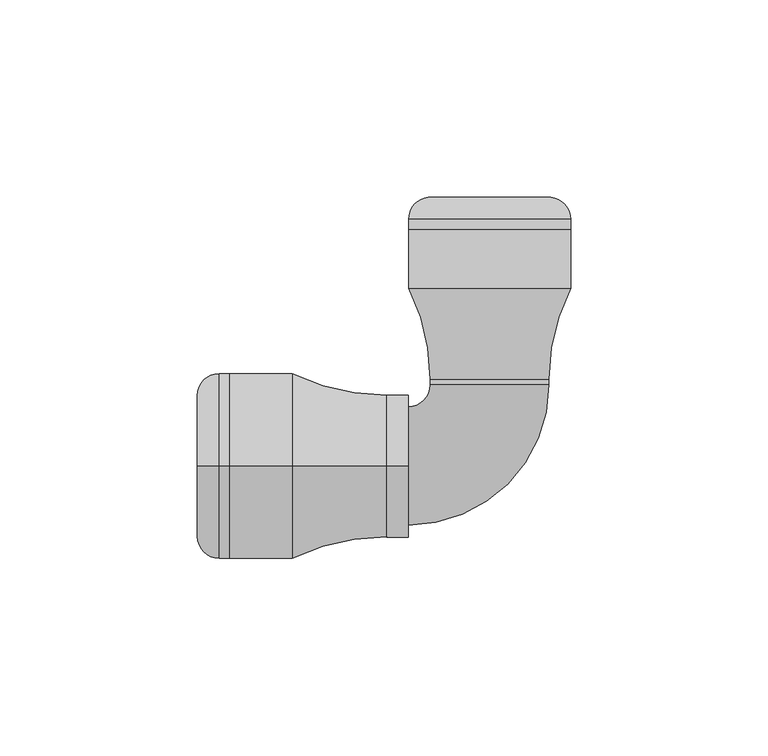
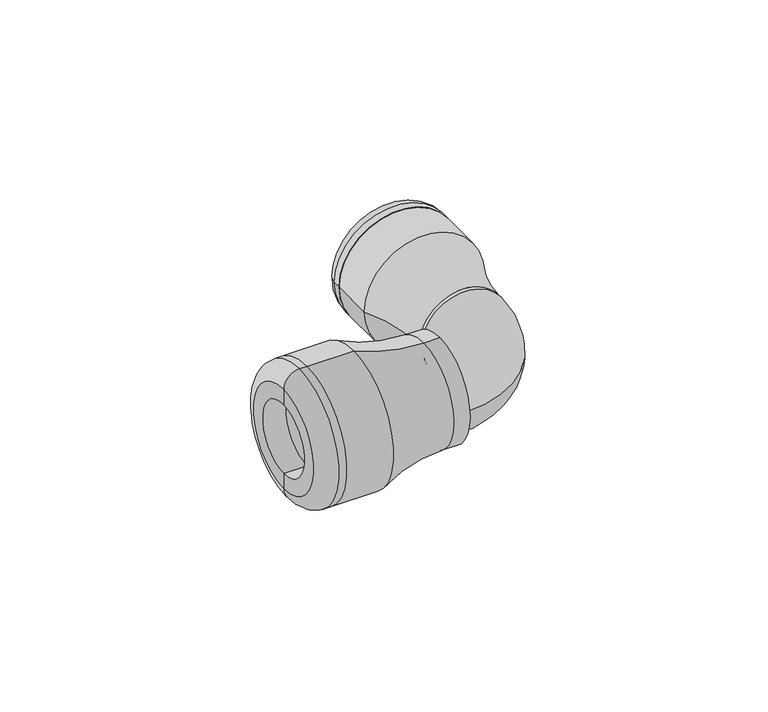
"""IFC4 building model written with IfcOpenShell, lengths in millimetres: pipe fitting geometry, Plumbing_Pipe-Fittings_Plasson_Reducing-Elbow-90_1051 : Plumbing_Pipe-Fittings_Plasson_Reducing-Elbow-90_1051."""

from ifc_helpers import new_model, si_unit, point, frame, origin, place, context, project, spatial, polyline, circle_curve, ellipse_curve, trimmed, source, transform, mapped, element, save
from ifc_brep_helpers import plane_surface, cylinder_surface, revolved_surface, advanced_brep


def pipe_fitting_50959c0b(model_context):
    return source(origin(), model_context, "Body", "AdvancedBrep", [
        advanced_brep(
        [(-20.6, -15.0, 0.0), (-20.6, 15.0, 0.0), (15.0, 20.6, 0.0), (-15.0, 20.6, 0.0)],
        [
            (0, 1, circle_curve(frame((-20.6, 0.0, 0.0), z_axis=(-1.0, 0.0, 0.0), x_axis=(0.0, 1.0, 0.0)), 15.0)),
            (1, 0, circle_curve(frame((-20.6, 0.0, 0.0), z_axis=(-1.0, 0.0, 0.0), x_axis=(0.0, 1.0, 0.0)), 15.0)),
            (2, 3, circle_curve(frame((0.0, 20.6, 0.0), z_axis=(0.0, 1.0, 0.0), x_axis=(-1.0, 0.0, 0.0)), 15.0)),
            (3, 2, circle_curve(frame((0.0, 20.6, 0.0), z_axis=(0.0, 1.0, 0.0), x_axis=(-1.0, 0.0, 0.0)), 15.0)),
            (3, 1, circle_curve(frame((-20.6, 20.6, 0.0), z_axis=(0.0, 0.0, -1.0), x_axis=(0.0, -1.0, 0.0)), 5.6)),
            (0, 2, circle_curve(frame((-20.6, 20.6, 0.0), z_axis=(0.0, 0.0, 1.0), x_axis=(0.0, -1.0, 0.0)), 35.6)),
        ],
        [
            plane_surface(frame((-20.6, 0.0, 0.0), z_axis=(-1.0, 0.0, 0.0), x_axis=(0.0, 0.0, 1.0))),
            plane_surface(frame((0.0, 20.6, 0.0), z_axis=(0.0, 1.0, 0.0), x_axis=(0.0, 0.0, 1.0))),
            revolved_surface(trimmed(ellipse_curve(frame((-20.6, 0.0, 0.0), z_axis=(-1.0, 0.0, 0.0), x_axis=(0.0, 1.0, 0.0)), 15.0, 15.0), [point((-20.6, -15.0, 0.0))], [point((-20.6, 15.0, 0.0))], True, "CARTESIAN"), (-20.6, 20.6, 0.0), (0.0, 0.0, 1.0)),
            revolved_surface(trimmed(ellipse_curve(frame((-20.6, 0.0, 0.0), z_axis=(-1.0, 0.0, 0.0), x_axis=(0.0, 1.0, 0.0)), 15.0, 15.0), [point((-20.6, 15.0, 0.0))], [point((-20.6, -15.0, 0.0))], True, "CARTESIAN"), (-20.6, 20.6, 0.0), (0.0, 0.0, 1.0)),
        ],
        [
            (0, [[1, 2]]),
            (1, [[3, 4]]),
            (2, [[5, -1, 6, -4]]),
            (3, [[-6, -2, -5, -3]]),
        ],
    ),
        advanced_brep(
        [(15.5, 68.0, 0.0), (-15.5, 68.0, 0.0), (-10.0, 68.0, 0.0), (10.0, 68.0, 0.0), (20.5, 60.0, 0.0), (-20.5, 60.0, 0.0), (-20.5, 62.5, 0.0), (20.5, 62.5, 0.0), (10.0, 60.0, 0.0), (-10.0, 60.0, 0.0)],
        [
            (0, 1, circle_curve(frame((0.0, 68.0, 0.0), z_axis=(0.0, 1.0, 0.0), x_axis=(-1.0, 0.0, 0.0)), 15.5)),
            (1, 2),
            (2, 3, circle_curve(frame((0.0, 68.0, 0.0), z_axis=(0.0, -1.0, 0.0), x_axis=(-1.0, 0.0, 0.0)), 10.0)),
            (3, 0),
            (1, 0, circle_curve(frame((0.0, 68.0, 0.0), z_axis=(0.0, 1.0, 0.0), x_axis=(-1.0, 0.0, 0.0)), 15.5)),
            (3, 2, circle_curve(frame((0.0, 68.0, 0.0), z_axis=(0.0, -1.0, 0.0), x_axis=(-1.0, 0.0, 0.0)), 10.0)),
            (4, 5, circle_curve(frame((0.0, 60.0, 0.0), z_axis=(0.0, 1.0, 0.0), x_axis=(-1.0, 0.0, 0.0)), 20.5)),
            (5, 6),
            (6, 7, circle_curve(frame((0.0, 62.5, 0.0), z_axis=(0.0, -1.0, 0.0), x_axis=(-1.0, 0.0, 0.0)), 20.5)),
            (7, 4),
            (5, 4, circle_curve(frame((0.0, 60.0, 0.0), z_axis=(0.0, 1.0, 0.0), x_axis=(-1.0, 0.0, 0.0)), 20.5)),
            (7, 6, circle_curve(frame((0.0, 62.5, 0.0), z_axis=(0.0, -1.0, 0.0), x_axis=(-1.0, 0.0, 0.0)), 20.5)),
            (8, 9, circle_curve(frame((0.0, 60.0, 0.0), z_axis=(0.0, 1.0, 0.0), x_axis=(-1.0, 0.0, 0.0)), 10.0)),
            (9, 5),
            (4, 8),
            (9, 8, circle_curve(frame((0.0, 60.0, 0.0), z_axis=(0.0, 1.0, 0.0), x_axis=(-1.0, 0.0, 0.0)), 10.0)),
            (2, 9),
            (8, 3),
            (6, 1, circle_curve(frame((-14.975, 62.5, 0.0), z_axis=(0.0, 0.0, -1.0), x_axis=(0.0, 1.0, 0.0)), 5.525)),
            (0, 7, circle_curve(frame((14.975, 62.5, 0.0), z_axis=(0.0, 0.0, -1.0), x_axis=(0.0, 1.0, 0.0)), 5.525)),
        ],
        [
            plane_surface(frame((0.0, 68.0, 0.0), z_axis=(0.0, 1.0, 0.0), x_axis=(-1.0, 0.0, 0.0))),
            cylinder_surface(frame((0.0, 34.2561261, 0.0), z_axis=(0.0, -1.0, 0.0), x_axis=(-1.0, 0.0, 0.0)), 20.5),
            plane_surface(frame((0.0, 60.0, 0.0), z_axis=(0.0, -1.0, 0.0), x_axis=(-1.0, 0.0, 0.0))),
            revolved_surface(polyline([(-10.0, 60.0, 0.0), (-10.0, 68.0, 0.0)]), (0.0, 34.2561261, 0.0), (0.0, -1.0, 0.0)),
            revolved_surface(trimmed(ellipse_curve(frame((-14.975, 62.5, 0.0), z_axis=(0.0, 0.0, 1.0), x_axis=(0.0, 1.0, 0.0)), 5.525, 5.525), [point((-15.5, 68.0, 0.0))], [point((-20.5, 62.5, 0.0))], True, "CARTESIAN"), (0.0, 34.2561261, 0.0), (0.0, -1.0, 0.0)),
        ],
        [
            (0, [[1, 2, 3, 4]]),
            (0, [[5, -4, 6, -2]]),
            (1, [[7, 8, 9, 10]]),
            (1, [[11, -10, 12, -8]]),
            (2, [[13, 14, -7, 15]]),
            (2, [[16, -15, -11, -14]]),
            (3, [[-3, 17, -13, 18]]),
            (3, [[-6, -18, -16, -17]]),
            (4, [[-9, 19, -1, 20]]),
            (4, [[-12, -20, -5, -19]]),
        ],
    ),
        advanced_brep(
        [(20.5, 45.0, 0.0), (-20.5, 45.0, 0.0), (-20.5, 60.0, 0.0), (20.5, 60.0, 0.0), (10.0, 22.0, 0.0), (-10.0, 22.0, 0.0), (0.0, 22.0, 0.0), (10.0, 60.0, 0.0), (-10.0, 60.0, 0.0), (15.0, 22.0, 0.0), (-15.0, 22.0, 0.0), (15.0, 20.6, 0.0), (-15.0, 20.6, 0.0), (0.0, 20.6, 0.0)],
        [
            (0, 1, circle_curve(frame((0.0, 45.0, 0.0), z_axis=(0.0, 1.0, 0.0), x_axis=(-1.0, 0.0, 0.0)), 20.5)),
            (1, 2),
            (2, 3, circle_curve(frame((0.0, 60.0, 0.0), z_axis=(0.0, -1.0, 0.0), x_axis=(-1.0, 0.0, 0.0)), 20.5)),
            (3, 0),
            (1, 0, circle_curve(frame((0.0, 45.0, 0.0), z_axis=(0.0, 1.0, 0.0), x_axis=(-1.0, 0.0, 0.0)), 20.5)),
            (3, 2, circle_curve(frame((0.0, 60.0, 0.0), z_axis=(0.0, -1.0, 0.0), x_axis=(-1.0, 0.0, 0.0)), 20.5)),
            (4, 5, circle_curve(frame((0.0, 22.0, 0.0), z_axis=(0.0, 1.0, 0.0), x_axis=(-1.0, 0.0, 0.0)), 10.0)),
            (5, 6),
            (6, 4),
            (5, 4, circle_curve(frame((0.0, 22.0, 0.0), z_axis=(0.0, 1.0, 0.0), x_axis=(-1.0, 0.0, 0.0)), 10.0)),
            (7, 8, circle_curve(frame((0.0, 60.0, 0.0), z_axis=(0.0, 1.0, 0.0), x_axis=(-1.0, 0.0, 0.0)), 10.0)),
            (8, 5),
            (4, 7),
            (8, 7, circle_curve(frame((0.0, 60.0, 0.0), z_axis=(0.0, 1.0, 0.0), x_axis=(-1.0, 0.0, 0.0)), 10.0)),
            (2, 8),
            (7, 3),
            (9, 10, circle_curve(frame((0.0, 22.0, 0.0), z_axis=(0.0, 1.0, 0.0), x_axis=(-1.0, 0.0, 0.0)), 15.0)),
            (10, 1, circle_curve(frame((-65.8409091, 22.0, 0.0), z_axis=(0.0, 0.0, 1.0), x_axis=(0.0, 1.0, 0.0)), 50.8409091)),
            (0, 9, circle_curve(frame((65.8409091, 22.0, 0.0), z_axis=(0.0, 0.0, 1.0), x_axis=(0.0, 1.0, 0.0)), 50.8409091)),
            (10, 9, circle_curve(frame((0.0, 22.0, 0.0), z_axis=(0.0, 1.0, 0.0), x_axis=(-1.0, 0.0, 0.0)), 15.0)),
            (11, 12, circle_curve(frame((0.0, 20.6, 0.0), z_axis=(0.0, 1.0, 0.0), x_axis=(-1.0, 0.0, 0.0)), 15.0)),
            (12, 10),
            (9, 11),
            (12, 11, circle_curve(frame((0.0, 20.6, 0.0), z_axis=(0.0, 1.0, 0.0), x_axis=(-1.0, 0.0, 0.0)), 15.0)),
            (13, 12),
            (11, 13),
        ],
        [
            cylinder_surface(frame((0.0, 36.3135311, 0.0), z_axis=(0.0, -1.0, 0.0), x_axis=(-1.0, 0.0, 0.0)), 20.5),
            plane_surface(frame((0.0, 22.0, 0.0), z_axis=(0.0, 1.0, 0.0), x_axis=(-1.0, 0.0, 0.0))),
            revolved_surface(polyline([(-10.0, 22.0, 0.0), (-10.0, 60.0, 0.0)]), (0.0, 36.3135311, 0.0), (0.0, -1.0, 0.0)),
            plane_surface(frame((0.0, 60.0, 0.0), z_axis=(0.0, 1.0, 0.0), x_axis=(-1.0, 0.0, 0.0))),
            revolved_surface(trimmed(ellipse_curve(frame((-65.8409091, 22.0, 0.0), z_axis=(0.0, 0.0, -1.0), x_axis=(0.0, 1.0, 0.0)), 50.8409091, 50.8409091), [point((-20.5, 45.0, 0.0))], [point((-15.0, 22.0, 0.0))], True, "CARTESIAN"), (0.0, 36.3135311, 0.0), (0.0, -1.0, 0.0)),
            cylinder_surface(frame((0.0, 36.3135311, 0.0), z_axis=(0.0, -1.0, 0.0), x_axis=(-1.0, 0.0, 0.0)), 15.0),
            plane_surface(frame((0.0, 20.6, 0.0), z_axis=(0.0, -1.0, 0.0), x_axis=(-1.0, 0.0, 0.0))),
        ],
        [
            (0, [[1, 2, 3, 4]]),
            (0, [[5, -4, 6, -2]]),
            (1, [[7, 8, 9]]),
            (1, [[10, -9, -8]]),
            (2, [[11, 12, -7, 13]]),
            (2, [[14, -13, -10, -12]]),
            (3, [[-3, 15, -11, 16]]),
            (3, [[-6, -16, -14, -15]]),
            (4, [[17, 18, -1, 19]]),
            (4, [[20, -19, -5, -18]]),
            (5, [[21, 22, -17, 23]]),
            (5, [[24, -23, -20, -22]]),
            (6, [[25, -21, 26]]),
            (6, [[-26, -24, -25]]),
        ],
    ),
        advanced_brep(
        [(-66.0, 0.0, -23.5), (-66.0, 0.0, 23.5), (-66.0, 0.0, 12.5), (-66.0, 0.0, -12.5), (-68.5, 0.0, -23.5), (-68.5, 0.0, 23.5), (-74.0, 0.0, -18.0), (-74.0, 0.0, 18.0), (-74.0, 0.0, -12.5), (-74.0, 0.0, 12.5)],
        [
            (0, 1, circle_curve(frame((-66.0, 0.0, 0.0), z_axis=(1.0, 0.0, 0.0), x_axis=(0.0, 0.0, 1.0)), 23.5)),
            (1, 2),
            (2, 3, circle_curve(frame((-66.0, 0.0, 0.0), z_axis=(-1.0, 0.0, 0.0), x_axis=(0.0, 0.0, 1.0)), 12.5)),
            (3, 0),
            (1, 0, circle_curve(frame((-66.0, 0.0, 0.0), z_axis=(1.0, 0.0, 0.0), x_axis=(0.0, 0.0, 1.0)), 23.5)),
            (3, 2, circle_curve(frame((-66.0, 0.0, 0.0), z_axis=(-1.0, 0.0, 0.0), x_axis=(0.0, 0.0, 1.0)), 12.5)),
            (4, 5, circle_curve(frame((-68.5, 0.0, 0.0), z_axis=(1.0, 0.0, 0.0), x_axis=(0.0, 0.0, 1.0)), 23.5)),
            (5, 1),
            (0, 4),
            (5, 4, circle_curve(frame((-68.5, 0.0, 0.0), z_axis=(1.0, 0.0, 0.0), x_axis=(0.0, 0.0, 1.0)), 23.5)),
            (6, 7, circle_curve(frame((-74.0, 0.0, 0.0), z_axis=(1.0, 0.0, 0.0), x_axis=(0.0, 0.0, 1.0)), 18.0)),
            (7, 5, circle_curve(frame((-68.5, 0.0, 18.0), z_axis=(0.0, 1.0, 0.0), x_axis=(1.0, 0.0, 0.0)), 5.5)),
            (4, 6, circle_curve(frame((-68.5, 0.0, -18.0), z_axis=(0.0, 1.0, 0.0), x_axis=(1.0, 0.0, 0.0)), 5.5)),
            (7, 6, circle_curve(frame((-74.0, 0.0, 0.0), z_axis=(1.0, 0.0, 0.0), x_axis=(0.0, 0.0, 1.0)), 18.0)),
            (8, 9, circle_curve(frame((-74.0, 0.0, 0.0), z_axis=(1.0, 0.0, 0.0), x_axis=(0.0, 0.0, 1.0)), 12.5)),
            (9, 7),
            (6, 8),
            (9, 8, circle_curve(frame((-74.0, 0.0, 0.0), z_axis=(1.0, 0.0, 0.0), x_axis=(0.0, 0.0, 1.0)), 12.5)),
            (2, 9),
            (8, 3),
        ],
        [
            plane_surface(frame((-66.0, 0.0, 0.0), z_axis=(1.0, 0.0, 0.0), x_axis=(0.0, 0.0, 1.0))),
            cylinder_surface(frame((-79.0, 0.0, 0.0), z_axis=(-1.0, 0.0, 0.0), x_axis=(0.0, 0.0, 1.0)), 23.5),
            revolved_surface(trimmed(ellipse_curve(frame((-68.5, 0.0, 18.0), z_axis=(0.0, -1.0, 0.0), x_axis=(1.0, 0.0, 0.0)), 5.5, 5.5), [point((-68.5, 0.0, 23.5))], [point((-74.0, 0.0, 18.0))], True, "CARTESIAN"), (-79.0, 0.0, 0.0), (-1.0, 0.0, 0.0)),
            plane_surface(frame((-74.0, 0.0, 0.0), z_axis=(-1.0, 0.0, 0.0), x_axis=(0.0, 0.0, 1.0))),
            revolved_surface(polyline([(-74.0, 0.0, 12.5), (-66.0, 0.0, 12.5)]), (-79.0, 0.0, 0.0), (-1.0, 0.0, 0.0)),
        ],
        [
            (0, [[1, 2, 3, 4]]),
            (0, [[5, -4, 6, -2]]),
            (1, [[7, 8, -1, 9]]),
            (1, [[10, -9, -5, -8]]),
            (2, [[11, 12, -7, 13]]),
            (2, [[14, -13, -10, -12]]),
            (3, [[15, 16, -11, 17]]),
            (3, [[18, -17, -14, -16]]),
            (4, [[-3, 19, -15, 20]]),
            (4, [[-6, -20, -18, -19]]),
        ],
    ),
        advanced_brep(
        [(-66.0, 0.0, -12.5), (-66.0, 0.0, 12.5), (-66.0, 0.0, 23.5), (-66.0, 0.0, -23.5), (-26.0, 0.0, -12.5), (-26.0, 0.0, 12.5), (-26.0, 0.0, 0.0), (-50.0, 0.0, 23.5), (-50.0, 0.0, -23.5), (-20.6, 0.0, -18.0), (-20.6, 0.0, 18.0), (-20.6, 0.0, 0.0), (-26.0, 0.0, -18.0), (-26.0, 0.0, 18.0)],
        [
            (0, 1, circle_curve(frame((-66.0, 0.0, 0.0), z_axis=(1.0, 0.0, 0.0), x_axis=(0.0, 0.0, 1.0)), 12.5)),
            (1, 2),
            (2, 3, circle_curve(frame((-66.0, 0.0, 0.0), z_axis=(-1.0, 0.0, 0.0), x_axis=(0.0, 0.0, 1.0)), 23.5)),
            (3, 0),
            (1, 0, circle_curve(frame((-66.0, 0.0, 0.0), z_axis=(1.0, 0.0, 0.0), x_axis=(0.0, 0.0, 1.0)), 12.5)),
            (3, 2, circle_curve(frame((-66.0, 0.0, 0.0), z_axis=(-1.0, 0.0, 0.0), x_axis=(0.0, 0.0, 1.0)), 23.5)),
            (4, 5, circle_curve(frame((-26.0, 0.0, 0.0), z_axis=(1.0, 0.0, 0.0), x_axis=(0.0, 0.0, 1.0)), 12.5)),
            (5, 1),
            (0, 4),
            (5, 4, circle_curve(frame((-26.0, 0.0, 0.0), z_axis=(1.0, 0.0, 0.0), x_axis=(0.0, 0.0, 1.0)), 12.5)),
            (6, 5),
            (4, 6),
            (2, 7),
            (7, 8, circle_curve(frame((-50.0, 0.0, 0.0), z_axis=(-1.0, 0.0, 0.0), x_axis=(0.0, 0.0, 1.0)), 23.5)),
            (8, 3),
            (8, 7, circle_curve(frame((-50.0, 0.0, 0.0), z_axis=(-1.0, 0.0, 0.0), x_axis=(0.0, 0.0, 1.0)), 23.5)),
            (9, 10, circle_curve(frame((-20.6, 0.0, 0.0), z_axis=(1.0, 0.0, 0.0), x_axis=(0.0, 0.0, 1.0)), 18.0)),
            (10, 11),
            (11, 9),
            (10, 9, circle_curve(frame((-20.6, 0.0, 0.0), z_axis=(1.0, 0.0, 0.0), x_axis=(0.0, 0.0, 1.0)), 18.0)),
            (12, 13, circle_curve(frame((-26.0, 0.0, 0.0), z_axis=(1.0, 0.0, 0.0), x_axis=(0.0, 0.0, 1.0)), 18.0)),
            (13, 10),
            (9, 12),
            (13, 12, circle_curve(frame((-26.0, 0.0, 0.0), z_axis=(1.0, 0.0, 0.0), x_axis=(0.0, 0.0, 1.0)), 18.0)),
            (7, 13, circle_curve(frame((-26.0, 0.0, 73.1136364), z_axis=(0.0, -1.0, 0.0), x_axis=(1.0, 0.0, 0.0)), 55.1136364)),
            (12, 8, circle_curve(frame((-26.0, 0.0, -73.1136364), z_axis=(0.0, -1.0, 0.0), x_axis=(1.0, 0.0, 0.0)), 55.1136364)),
        ],
        [
            plane_surface(frame((-66.0, 0.0, 0.0), z_axis=(-1.0, 0.0, 0.0), x_axis=(0.0, 0.0, 1.0))),
            revolved_surface(polyline([(-66.0, 0.0, 12.5), (-26.0, 0.0, 12.5)]), (-66.0, 0.0, 0.0), (-1.0, 0.0, 0.0)),
            plane_surface(frame((-26.0, 0.0, 0.0), z_axis=(-1.0, 0.0, 0.0), x_axis=(0.0, 0.0, 1.0))),
            cylinder_surface(frame((-66.0, 0.0, 0.0), z_axis=(-1.0, 0.0, 0.0), x_axis=(0.0, 0.0, 1.0)), 23.5),
            plane_surface(frame((-20.6, 0.0, 0.0), z_axis=(1.0, 0.0, 0.0), x_axis=(0.0, 0.0, 1.0))),
            cylinder_surface(frame((-66.0, 0.0, 0.0), z_axis=(-1.0, 0.0, 0.0), x_axis=(0.0, 0.0, 1.0)), 18.0),
            revolved_surface(trimmed(ellipse_curve(frame((-26.0, 0.0, 73.1136364), z_axis=(0.0, 1.0, 0.0), x_axis=(1.0, 0.0, 0.0)), 55.1136364, 55.1136364), [point((-26.0, 0.0, 18.0))], [point((-50.0, 0.0, 23.5))], True, "CARTESIAN"), (-66.0, 0.0, 0.0), (-1.0, 0.0, 0.0)),
        ],
        [
            (0, [[1, 2, 3, 4]]),
            (0, [[5, -4, 6, -2]]),
            (1, [[7, 8, -1, 9]]),
            (1, [[10, -9, -5, -8]]),
            (2, [[11, -7, 12]]),
            (2, [[-12, -10, -11]]),
            (3, [[-3, 13, 14, 15]]),
            (3, [[-6, -15, 16, -13]]),
            (4, [[17, 18, 19]]),
            (4, [[20, -19, -18]]),
            (5, [[21, 22, -17, 23]]),
            (5, [[24, -23, -20, -22]]),
            (6, [[-14, 25, -21, 26]]),
            (6, [[-16, -26, -24, -25]]),
        ],
    ),
    ])


if __name__ == "__main__":
    model = new_model("IFC4")
    model_context = context("Model", 3, world=origin())
    ifc_project = project(units=[si_unit("LENGTHUNIT", "METRE", prefix="MILLI")], contexts=[model_context])
    site = spatial("IfcSite", under=ifc_project)
    building = spatial("IfcBuilding", under=site)
    placement = place(None, origin())
    pipe_fitting_shape = pipe_fitting_50959c0b(model_context)
    element("IfcPipeFitting", 1, ObjectType="Plumbing_Pipe-Fittings_Plasson_Reducing-Elbow-90_1051 : Plumbing_Pipe-Fittings_Plasson_Reducing-Elbow-90_1051", at=placement, inside=building, context=model_context, shape_type="MappedRepresentation", body=[
        mapped(pipe_fitting_shape, transform((0.0, 0.0, 0.0), x_axis=(1.0, 0.0, 0.0), y_axis=(0.0, 1.0, 0.0), z_axis=(0.0, 0.0, 1.0))),
    ])
    save(model, "model.ifc")
